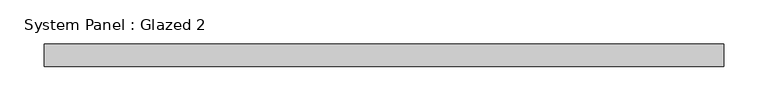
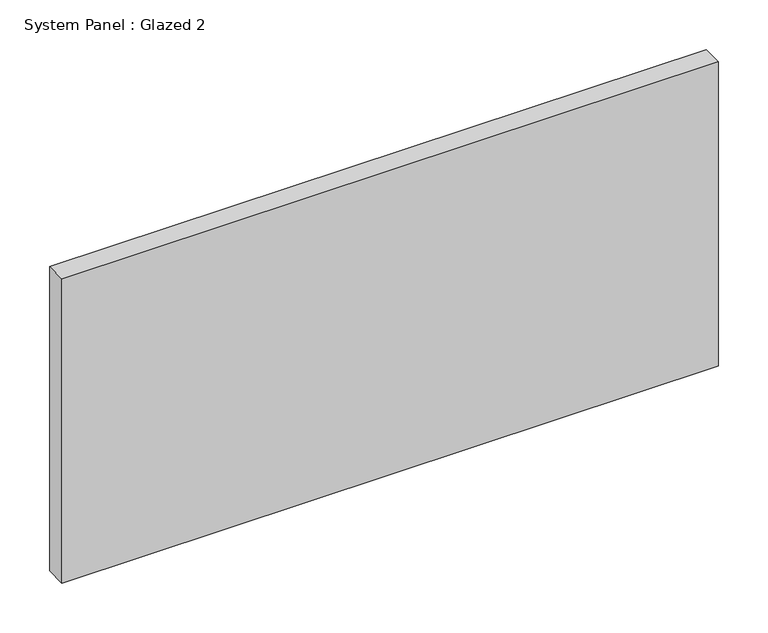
"""IFC4 building model written with IfcOpenShell, lengths in millimetres: plate geometry, System Panel : Glazed 2."""

from ifc_helpers import new_model, si_unit, origin, origin_with_axes, place, context, project, spatial, polyline, outline, extrude, source, transform, mapped, element, save


def system_panel_glazed_2_c75f6443(model_context):
    return source(origin(), model_context, "Body", "SweptSolid", [
        extrude(outline(polyline([(382.5, -12.5), (-382.5, -12.5), (-382.5, 12.5), (382.5, 12.5), (382.5, -12.5)])), origin_with_axes(), (0.0, 0.0, 1.0), 375.0),
    ])


if __name__ == "__main__":
    model = new_model("IFC4")
    model_context = context("Model", 3, world=origin())
    ifc_project = project(units=[si_unit("LENGTHUNIT", "METRE", prefix="MILLI")], contexts=[model_context])
    site = spatial("IfcSite", under=ifc_project)
    building = spatial("IfcBuilding", under=site)
    placement = place(None, origin())
    system_panel_glazed_2_shape = system_panel_glazed_2_c75f6443(model_context)
    element("IfcPlate", 1, ObjectType="System Panel : Glazed 2", at=placement, inside=building, context=model_context, shape_type="MappedRepresentation", body=[
        mapped(system_panel_glazed_2_shape, transform((0.0, 0.0, 0.0), x_axis=(1.0, 0.0, 0.0), y_axis=(0.0, 1.0, 0.0), z_axis=(0.0, 0.0, 1.0))),
    ])
    save(model, "model.ifc")
